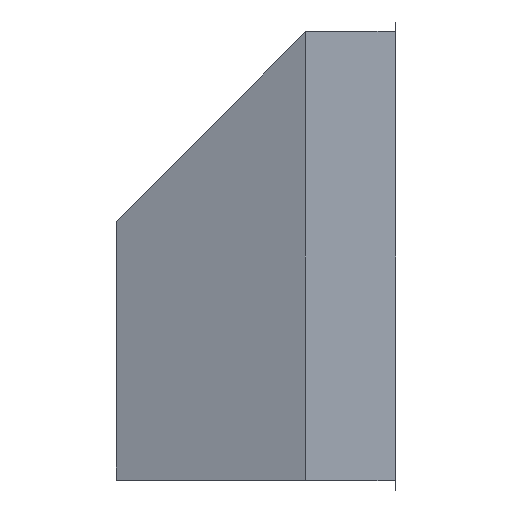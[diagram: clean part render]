
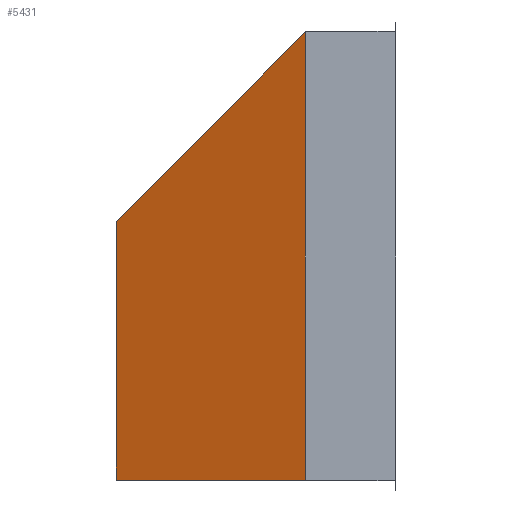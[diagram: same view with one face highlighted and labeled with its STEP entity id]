
A CAD part, left-side view. The second image highlights one B-rep face of the part: STEP entity #5431.
In plain terms, the highlighted planar face has unit normal (-0.94, 0.342, 0).
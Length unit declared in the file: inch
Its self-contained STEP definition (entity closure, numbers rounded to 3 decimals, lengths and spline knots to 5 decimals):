
#361=DIRECTION('',(-0.249,-0.685,0.685));
#362=VECTOR('',#361,13.87284);
#363=CARTESIAN_POINT('',(-13.70578,14.,13.));
#364=LINE('',#363,#362);
#477=DIRECTION('',(-0.342,-0.94,0.));
#478=VECTOR('',#477,10.10969);
#479=CARTESIAN_POINT('',(-13.70578,14.,0.));
#480=LINE('',#479,#478);
#498=DIRECTION('',(0.,0.,1.));
#499=VECTOR('',#498,13.);
#500=CARTESIAN_POINT('',(-13.70578,14.,0.));
#501=LINE('',#500,#499);
#512=DIRECTION('',(0.,0.,1.));
#513=VECTOR('',#512,22.5);
#514=CARTESIAN_POINT('',(-17.1635,4.5,0.));
#515=LINE('',#514,#513);
#4553=CARTESIAN_POINT('',(-17.1635,4.5,0.));
#4554=CARTESIAN_POINT('',(-17.1635,4.5,22.5));
#4555=VERTEX_POINT('',#4553);
#4556=VERTEX_POINT('',#4554);
#4557=CARTESIAN_POINT('',(-13.70578,14.,0.));
#4558=CARTESIAN_POINT('',(-13.70578,14.,13.));
#4559=VERTEX_POINT('',#4557);
#4560=VERTEX_POINT('',#4558);
#5419=CARTESIAN_POINT('',(-13.70578,14.,0.));
#5420=DIRECTION('',(-0.94,0.342,0.));
#5421=DIRECTION('',(-0.342,-0.94,0.));
#5422=AXIS2_PLACEMENT_3D('',#5419,#5420,#5421);
#5423=PLANE('',#5422);
#5425=ORIENTED_EDGE('',*,*,#5424,.F.);
#5426=ORIENTED_EDGE('',*,*,#5396,.F.);
#5427=ORIENTED_EDGE('',*,*,#5412,.T.);
#5428=ORIENTED_EDGE('',*,*,#5279,.T.);
#5429=EDGE_LOOP('',(#5425,#5426,#5427,#5428));
#5430=FACE_OUTER_BOUND('',#5429,.F.);
#5431=ADVANCED_FACE('',(#5430),#5423,.T.);
#5279=EDGE_CURVE('',#4560,#4556,#364,.T.);
#5396=EDGE_CURVE('',#4559,#4555,#480,.T.);
#5412=EDGE_CURVE('',#4559,#4560,#501,.T.);
#5424=EDGE_CURVE('',#4555,#4556,#515,.T.);
